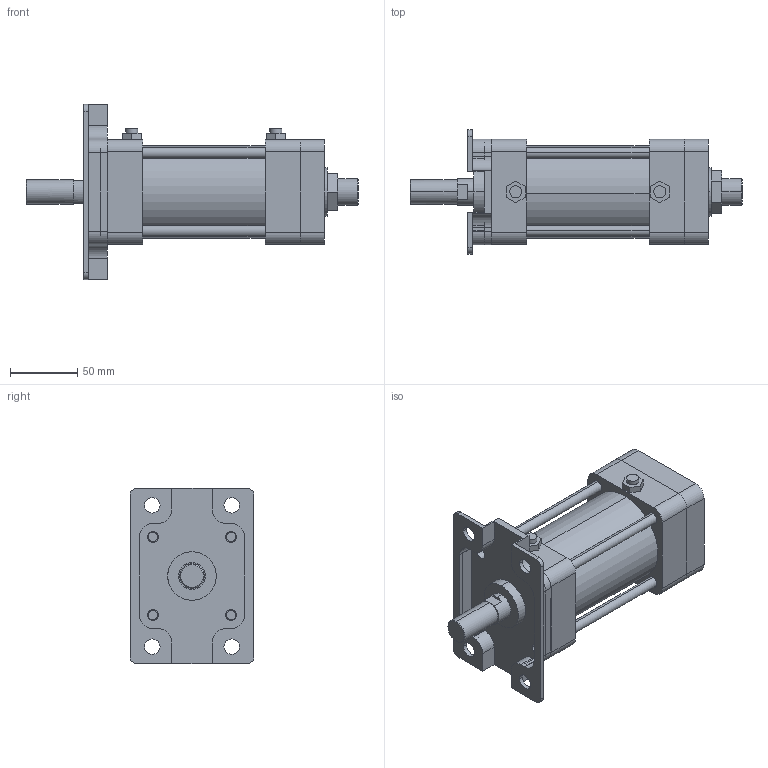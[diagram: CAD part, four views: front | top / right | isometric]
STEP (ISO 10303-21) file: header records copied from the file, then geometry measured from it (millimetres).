
FILE_DESCRIPTION (( 'STEP AP203' ), '1' );
FILE_NAME ('KGA2-63#-50-A.STEP', '2016-04-14T07:40:59', ( '' ), ( '' ), 'SwSTEP 2.0', 'SolidWorks 2014', '' );
FILE_SCHEMA (( 'CONFIG_CONTROL_DESIGN' ));
Length unit declared in the file: millimetre
Products named in the file (8): KGA2-63#-50-A; KG2-63-After; KGA2-63-After; KGLH2-63-50; K-63-AB
Assembly tree (17 placements, depth 2):
  KGA2-63#-50-A
    KG2-63-After
    KGLH2-63-50
    (unnamed)
    (unnamed)  x4
    (unnamed)  x8
    K-63-AB
    KGA2-63-After
Bounding box: 246.5 x 92 x 130 mm (x, y, z)
Volume: 768008.2 mm3; surface area: 172519.7 mm2
Topology: 17 solids, 17 shells, 422 faces, 1038 edges, 668 vertices
Faces by surface type: plane 182, cylinder 174, torus 38, cone 28
Entity records: 11579 total; most frequent: CARTESIAN_POINT 2097, DIRECTION 1830, ORIENTED_EDGE 1696, EDGE_CURVE 848, AXIS2_PLACEMENT_3D 674, VERTEX_POINT 558, VECTOR 482, LINE 482
